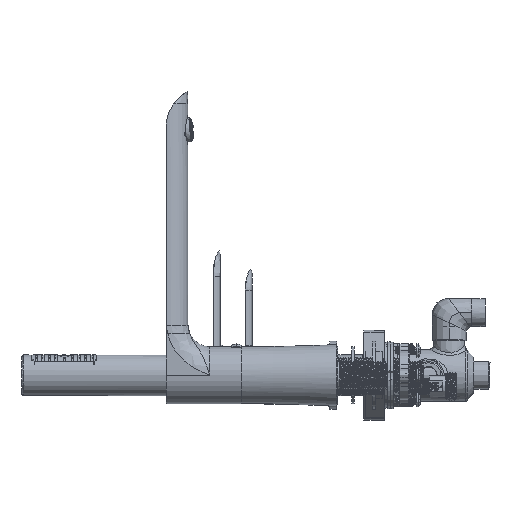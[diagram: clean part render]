
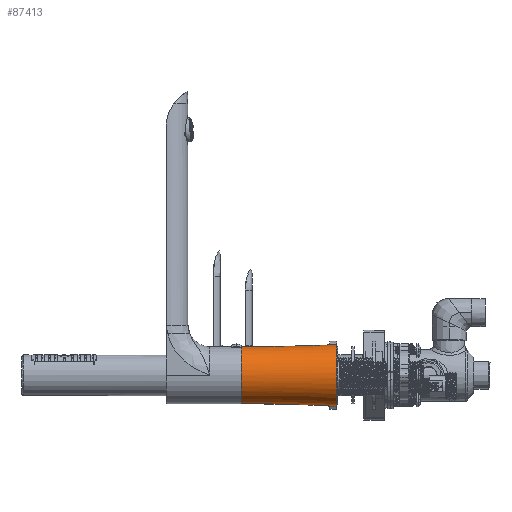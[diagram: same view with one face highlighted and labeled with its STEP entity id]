
A CAD part, left-side view. The second image highlights one B-rep face of the part: STEP entity #87413.
In plain terms, the highlighted toroidal (fillet/blend) face has major radius 1655.08 mm and minor radius 1634.08 mm.
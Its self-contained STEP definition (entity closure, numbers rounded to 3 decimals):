
#846=TOROIDAL_SURFACE('',#93540,1655.083,1634.083);
#10733=FACE_OUTER_BOUND('',#16248,.T.);
#16248=EDGE_LOOP('',(#73876,#73877,#73878,#73879,#73880,#73881));
#19997=CIRCLE('',#93533,22.5);
#19998=CIRCLE('',#93534,22.5);
#20003=CIRCLE('',#93541,21.);
#20004=CIRCLE('',#93542,21.);
#20005=CIRCLE('',#93543,1634.083);
#41922=VERTEX_POINT('',#208296);
#41923=VERTEX_POINT('',#208297);
#41928=VERTEX_POINT('',#208310);
#41929=VERTEX_POINT('',#208311);
#53110=EDGE_CURVE('',#41922,#41923,#19997,.T.);
#53111=EDGE_CURVE('',#41923,#41922,#19998,.T.);
#53116=EDGE_CURVE('',#41928,#41929,#20003,.T.);
#53117=EDGE_CURVE('',#41929,#41928,#20004,.T.);
#53118=EDGE_CURVE('',#41929,#41923,#20005,.T.);
#73876=ORIENTED_EDGE('',*,*,#53116,.F.);
#73877=ORIENTED_EDGE('',*,*,#53117,.F.);
#73878=ORIENTED_EDGE('',*,*,#53118,.T.);
#73879=ORIENTED_EDGE('',*,*,#53110,.F.);
#73880=ORIENTED_EDGE('',*,*,#53111,.F.);
#73881=ORIENTED_EDGE('',*,*,#53118,.F.);
#87413=ADVANCED_FACE('',(#10733),#846,.T.);
#93533=AXIS2_PLACEMENT_3D('',#208298,#108896,#108897);
#93534=AXIS2_PLACEMENT_3D('',#208299,#108898,#108899);
#93540=AXIS2_PLACEMENT_3D('',#208309,#108910,#108911);
#93541=AXIS2_PLACEMENT_3D('',#208312,#108912,#108913);
#93542=AXIS2_PLACEMENT_3D('',#208313,#108914,#108915);
#93543=AXIS2_PLACEMENT_3D('',#208314,#108916,#108917);
#108896=DIRECTION('center_axis',(0.,1.,0.));
#108897=DIRECTION('ref_axis',(0.,0.,1.));
#108898=DIRECTION('center_axis',(0.,1.,0.));
#108899=DIRECTION('ref_axis',(0.,0.,1.));
#108910=DIRECTION('center_axis',(0.,-1.,0.));
#108911=DIRECTION('ref_axis',(0.,0.,-1.));
#108912=DIRECTION('center_axis',(0.,-1.,0.));
#108913=DIRECTION('ref_axis',(0.,0.,-1.));
#108914=DIRECTION('center_axis',(0.,-1.,0.));
#108915=DIRECTION('ref_axis',(0.,0.,-1.));
#108916=DIRECTION('center_axis',(-1.,0.,0.));
#108917=DIRECTION('ref_axis',(0.,0.,1.));
#208296=CARTESIAN_POINT('',(-150.,0.,-172.5));
#208297=CARTESIAN_POINT('',(-150.,0.,-127.5));
#208298=CARTESIAN_POINT('Origin',(-150.,0.,-150.));
#208299=CARTESIAN_POINT('Origin',(-150.,0.,-150.));
#208309=CARTESIAN_POINT('Origin',(-150.,70.,-150.));
#208310=CARTESIAN_POINT('',(-150.,70.,-169.85));
#208311=CARTESIAN_POINT('',(-150.,70.,-129.));
#208312=CARTESIAN_POINT('Origin',(-150.,70.,-150.));
#208313=CARTESIAN_POINT('Origin',(-150.,70.,-150.));
#208314=CARTESIAN_POINT('Origin',(-150.,70.,1505.083));
